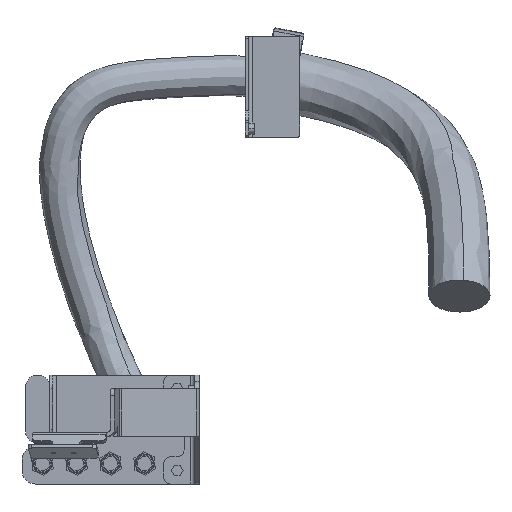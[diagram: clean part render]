
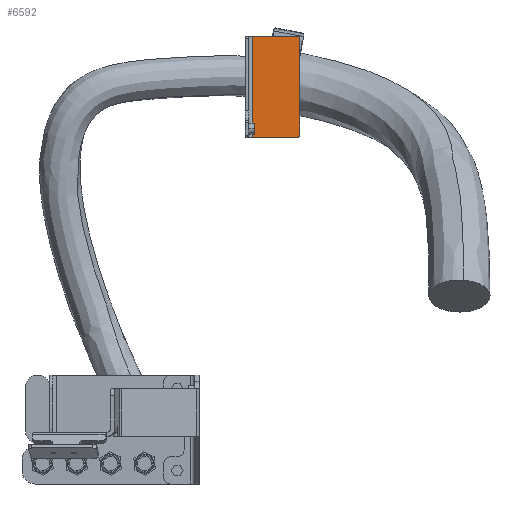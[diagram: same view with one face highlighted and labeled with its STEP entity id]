
A CAD part, left-side view. The second image highlights one B-rep face of the part: STEP entity #6592.
In plain terms, the highlighted planar face has unit normal (-1, 0, 0).
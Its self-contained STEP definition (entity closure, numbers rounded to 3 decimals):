
#96 = VECTOR ( 'NONE', #11506, 1000. ) ;
#196 = EDGE_LOOP ( 'NONE', ( #11924, #10191, #13715, #23002, #13815, #24463 ) ) ;
#437 = DIRECTION ( 'NONE',  ( -1., 0., 0. ) ) ;
#885 = CIRCLE ( 'NONE', #15216, 3. ) ;
#1373 = VERTEX_POINT ( 'NONE', #24070 ) ;
#1624 = LINE ( 'NONE', #17390, #96 ) ;
#1938 = CARTESIAN_POINT ( 'NONE',  ( 555., -140., 2186. ) ) ;
#1995 = VERTEX_POINT ( 'NONE', #7567 ) ;
#2067 = VECTOR ( 'NONE', #12729, 1000. ) ;
#2941 = CARTESIAN_POINT ( 'NONE',  ( 555., -140., 2038. ) ) ;
#3139 = EDGE_CURVE ( 'NONE', #12919, #1373, #9843, .T. ) ;
#3293 = VERTEX_POINT ( 'NONE', #10842 ) ;
#3754 = CARTESIAN_POINT ( 'NONE',  ( 555., -207., 2186. ) ) ;
#4526 = EDGE_CURVE ( 'NONE', #1995, #3293, #22491, .T. ) ;
#4843 = CARTESIAN_POINT ( 'NONE',  ( 555., -135., 2038. ) ) ;
#4851 = CARTESIAN_POINT ( 'NONE',  ( 555., -207., 2041. ) ) ;
#4908 = CARTESIAN_POINT ( 'NONE',  ( 555., -210., 2186. ) ) ;
#4960 = VERTEX_POINT ( 'NONE', #1938 ) ;
#6366 = DIRECTION ( 'NONE',  ( 0., 1., 0. ) ) ;
#6592 = ADVANCED_FACE ( 'NONE', ( #14073 ), #9917, .F. ) ;
#7033 = CIRCLE ( 'NONE', #9021, 3. ) ;
#7567 = CARTESIAN_POINT ( 'NONE',  ( 555., -210., 2041. ) ) ;
#7613 = EDGE_CURVE ( 'NONE', #1373, #1995, #885, .T. ) ;
#7995 = EDGE_CURVE ( 'NONE', #12919, #4960, #18447, .T. ) ;
#8185 = DIRECTION ( 'NONE',  ( 0., 1., 0. ) ) ;
#8686 = CARTESIAN_POINT ( 'NONE',  ( 555., -140., 2038. ) ) ;
#9021 = AXIS2_PLACEMENT_3D ( 'NONE', #22262, #437, #22384 ) ;
#9843 = LINE ( 'NONE', #4843, #22083 ) ;
#9917 = PLANE ( 'NONE',  #21757 ) ;
#10191 = ORIENTED_EDGE ( 'NONE', *, *, #22558, .T. ) ;
#10307 = VECTOR ( 'NONE', #24365, 1000. ) ;
#10443 = DIRECTION ( 'NONE',  ( 1., 0., 0. ) ) ;
#10842 = CARTESIAN_POINT ( 'NONE',  ( 555., -210., 2183. ) ) ;
#11506 = DIRECTION ( 'NONE',  ( 0., 1., 0. ) ) ;
#11924 = ORIENTED_EDGE ( 'NONE', *, *, #4526, .T. ) ;
#12729 = DIRECTION ( 'NONE',  ( 0., 0., 1. ) ) ;
#12919 = VERTEX_POINT ( 'NONE', #2941 ) ;
#13715 = ORIENTED_EDGE ( 'NONE', *, *, #23732, .T. ) ;
#13815 = ORIENTED_EDGE ( 'NONE', *, *, #3139, .T. ) ;
#14073 = FACE_OUTER_BOUND ( 'NONE', #196, .T. ) ;
#15216 = AXIS2_PLACEMENT_3D ( 'NONE', #4851, #23716, #8185 ) ;
#17390 = CARTESIAN_POINT ( 'NONE',  ( 555., -135., 2186. ) ) ;
#17689 = DIRECTION ( 'NONE',  ( 0., -1., 0. ) ) ;
#18447 = LINE ( 'NONE', #8686, #10307 ) ;
#20241 = CARTESIAN_POINT ( 'NONE',  ( 555., -135., 2186. ) ) ;
#20501 = VERTEX_POINT ( 'NONE', #3754 ) ;
#21757 = AXIS2_PLACEMENT_3D ( 'NONE', #20241, #10443, #6366 ) ;
#22083 = VECTOR ( 'NONE', #17689, 1000. ) ;
#22262 = CARTESIAN_POINT ( 'NONE',  ( 555., -207., 2183. ) ) ;
#22384 = DIRECTION ( 'NONE',  ( 0., 1., 0. ) ) ;
#22491 = LINE ( 'NONE', #4908, #2067 ) ;
#22558 = EDGE_CURVE ( 'NONE', #3293, #20501, #7033, .T. ) ;
#23002 = ORIENTED_EDGE ( 'NONE', *, *, #7995, .F. ) ;
#23716 = DIRECTION ( 'NONE',  ( -1., 0., 0. ) ) ;
#23732 = EDGE_CURVE ( 'NONE', #20501, #4960, #1624, .T. ) ;
#24070 = CARTESIAN_POINT ( 'NONE',  ( 555., -207., 2038. ) ) ;
#24365 = DIRECTION ( 'NONE',  ( 0., 0., 1. ) ) ;
#24463 = ORIENTED_EDGE ( 'NONE', *, *, #7613, .T. ) ;
